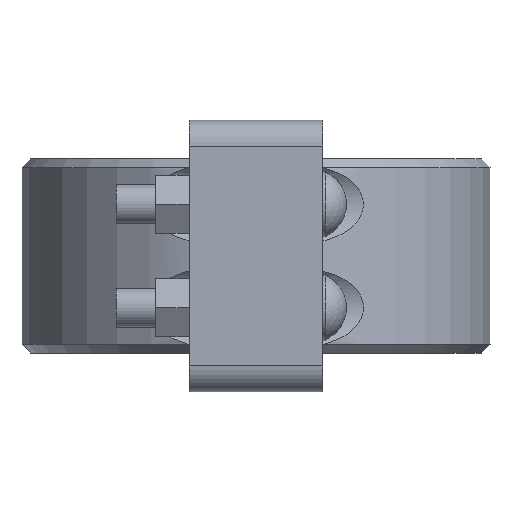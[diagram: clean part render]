
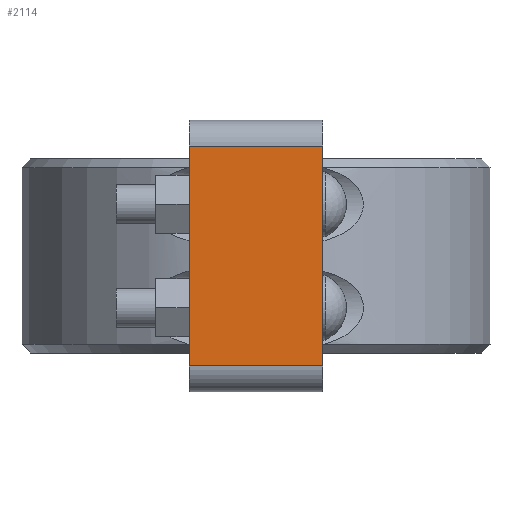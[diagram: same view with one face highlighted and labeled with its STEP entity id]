
A CAD part, left-side view. The second image highlights one B-rep face of the part: STEP entity #2114.
In plain terms, the highlighted planar face has unit normal (-1, 0, 0).
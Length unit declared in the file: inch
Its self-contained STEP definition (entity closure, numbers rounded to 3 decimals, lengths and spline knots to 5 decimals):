
#200=FACE_OUTER_BOUND('',#328,.T.);
#328=EDGE_LOOP('',(#1624,#1625,#1626,#1627));
#470=LINE('',#3333,#629);
#482=LINE('',#3388,#641);
#499=LINE('',#3452,#658);
#500=LINE('',#3454,#659);
#629=VECTOR('',#2696,0.3937);
#641=VECTOR('',#2726,0.3937);
#658=VECTOR('',#2789,0.3937);
#659=VECTOR('',#2792,0.3937);
#919=VERTEX_POINT('',#3330);
#920=VERTEX_POINT('',#3332);
#941=VERTEX_POINT('',#3385);
#942=VERTEX_POINT('',#3387);
#1150=EDGE_CURVE('',#919,#920,#470,.T.);
#1174=EDGE_CURVE('',#941,#942,#482,.T.);
#1205=EDGE_CURVE('',#919,#942,#499,.T.);
#1206=EDGE_CURVE('',#920,#941,#500,.T.);
#1624=ORIENTED_EDGE('',*,*,#1205,.T.);
#1625=ORIENTED_EDGE('',*,*,#1174,.F.);
#1626=ORIENTED_EDGE('',*,*,#1206,.F.);
#1627=ORIENTED_EDGE('',*,*,#1150,.F.);
#1919=PLANE('',#2322);
#2114=ADVANCED_FACE('',(#200),#1919,.T.);
#2322=AXIS2_PLACEMENT_3D('',#3453,#2790,#2791);
#2696=DIRECTION('',(0.,0.,1.));
#2726=DIRECTION('',(0.,0.,-1.));
#2789=DIRECTION('',(0.,-1.,0.));
#2790=DIRECTION('center_axis',(-1.,0.,0.));
#2791=DIRECTION('ref_axis',(0.,0.,-1.));
#2792=DIRECTION('',(0.,-1.,0.));
#3330=CARTESIAN_POINT('',(-9.625,1.94,-3.19));
#3332=CARTESIAN_POINT('',(-9.625,1.94,3.19));
#3333=CARTESIAN_POINT('',(-9.625,1.94,0.));
#3385=CARTESIAN_POINT('',(-9.625,-1.94,3.19));
#3387=CARTESIAN_POINT('',(-9.625,-1.94,-3.19));
#3388=CARTESIAN_POINT('',(-9.625,-1.94,3.19));
#3452=CARTESIAN_POINT('',(-9.625,0.,-3.19));
#3453=CARTESIAN_POINT('Origin',(-9.625,0.,3.19));
#3454=CARTESIAN_POINT('',(-9.625,0.,3.19));
